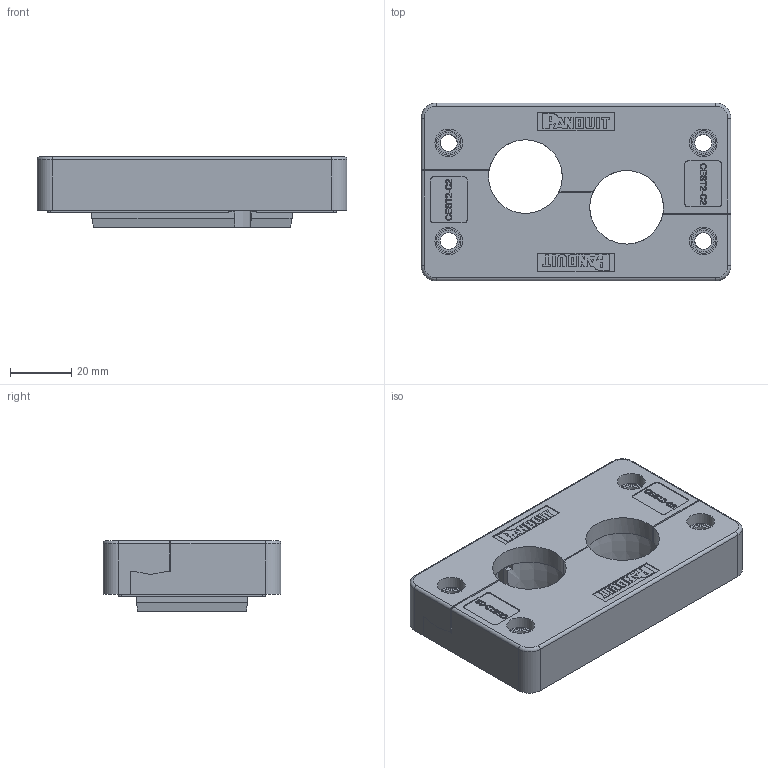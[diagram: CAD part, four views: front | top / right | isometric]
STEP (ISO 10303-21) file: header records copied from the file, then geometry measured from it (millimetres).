
FILE_DESCRIPTION(/* description */ (''),/* implementation_level */ '2;1');
FILE_NAME(/* name */ 'H:\SapWorkDir\Inventor\MP1\ConvertTempPath\87_11_121467_00_A_220620_KDL-D 10-2 ZSB.stp',/* time_stamp */ '2022-06-20T11:39:56+02:00',/* author */ ('BAUER'),/* organization */ (''),/* preprocessor_version */ 'ST-DEVELOPER v16.13',/* originating_system */ 'Autodesk Inventor 2018',/* authorisation */ '');
FILE_SCHEMA (('AUTOMOTIVE_DESIGN { 1 0 10303 214 3 1 1 }'));
Length unit declared in the file: millimetre
Products named in the file (4): 121467; KDB-10; 121416; 121417
Assembly tree (3 placements, depth 2):
  121467
    KDB-10
    121416
    121417
Bounding box: 101 x 58 x 23 mm (x, y, z)
Volume: 78710.8 mm3; surface area: 42842.2 mm2
Topology: 3 solids, 5 shells, 974 faces, 2562 edges, 1667 vertices
Faces by surface type: plane 575, bspline 180, cylinder 175, torus 24, sphere 12, cone 8
Full cylindrical faces by diameter (mm): 4 x1, 5 x4, 5.5 x10, 6 x2, 7 x4, 8 x4, 9 x4
Entity records: 31222 total; most frequent: CARTESIAN_POINT 8084, ORIENTED_EDGE 5022, DIRECTION 4198, EDGE_CURVE 2511, LINE 1710, VECTOR 1710, VERTEX_POINT 1657, AXIS2_PLACEMENT_3D 1244
